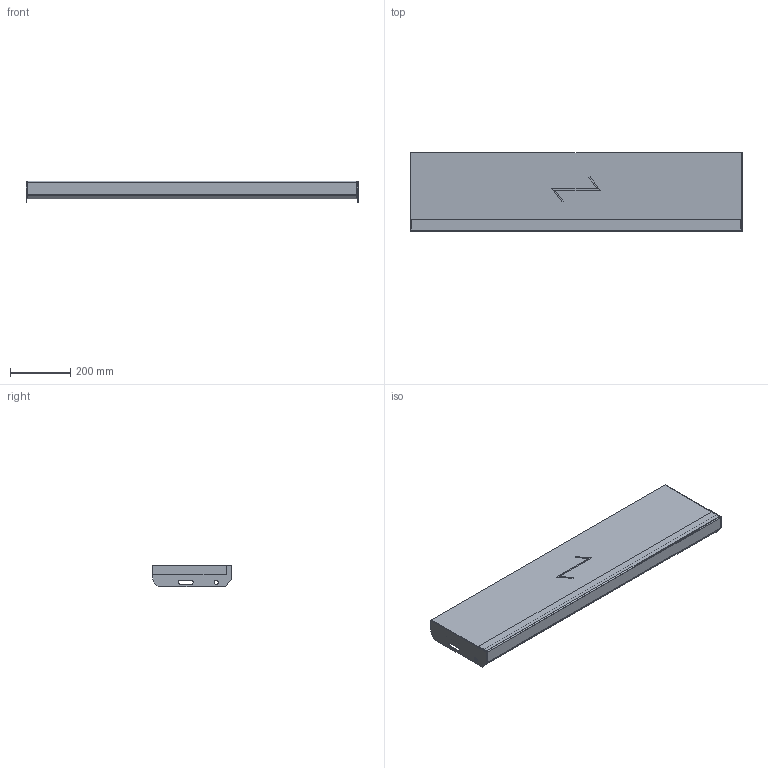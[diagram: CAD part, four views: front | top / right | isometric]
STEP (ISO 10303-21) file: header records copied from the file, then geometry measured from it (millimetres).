
FILE_DESCRIPTION (( 'STEP AP203' ), '1' );
FILE_NAME ('StegTH6-S-nya_steget-1100x260.STEP', '2020-03-04T07:45:08', ( '' ), ( '' ), 'SwSTEP 2.0', 'SolidWorks 2019', '' );
FILE_SCHEMA (( 'CONFIG_CONTROL_DESIGN' ));
Length unit declared in the file: millimetre
Products named in the file (5): StegTH6-S-nya_steget-1100x260; SW0000038702; SW0000038977; SW0000039247; SW0000039559
Assembly tree (5 placements, depth 3):
  StegTH6-S-nya_steget-1100x260
    SW0000039559
      SW0000038977
      SW0000039247
      SW0000038702  x2
Bounding box: 1100 x 260 x 72 mm (x, y, z)
Volume: 8291523.8 mm3; surface area: 903900.2 mm2
Topology: 4 solids, 4 shells, 67 faces, 158 edges, 100 vertices
Faces by surface type: plane 51, cylinder 16
Entity records: 2002 total; most frequent: DIRECTION 261, CARTESIAN_POINT 254, ORIENTED_EDGE 238, EDGE_CURVE 119, VECTOR 99, LINE 99, AXIS2_PLACEMENT_3D 81, VERTEX_POINT 74
